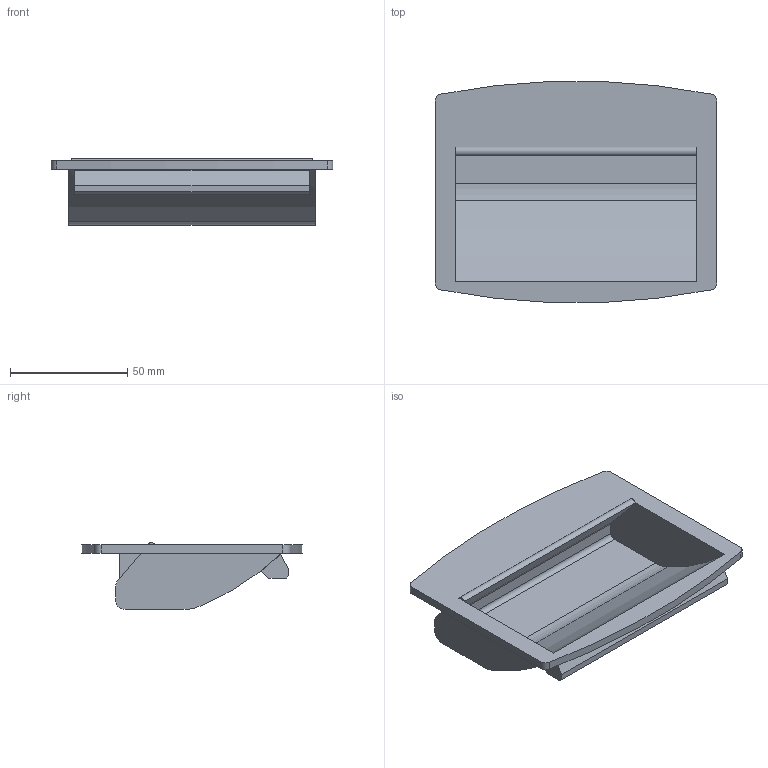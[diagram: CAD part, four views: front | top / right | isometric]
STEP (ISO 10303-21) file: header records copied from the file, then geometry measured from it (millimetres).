
FILE_DESCRIPTION (( 'STEP AP203' ), '1' );
FILE_NAME ('efph120sl-cl.STEP', '2021-10-25T01:57:04', ( '' ), ( '' ), 'SwSTEP 2.0', 'SolidWorks 2020', '' );
FILE_SCHEMA (( 'CONFIG_CONTROL_DESIGN' ));
Length unit declared in the file: millimetre
Products named in the file (1): efph120sl-cl
Bounding box: 120 x 94.05 x 28.5 mm (x, y, z)
Volume: 51836 mm3; surface area: 40028.9 mm2
Topology: 1 solids, 1 shells, 59 faces, 159 edges, 106 vertices
Faces by surface type: plane 44, cylinder 15
Entity records: 1922 total; most frequent: CARTESIAN_POINT 325, ORIENTED_EDGE 318, DIRECTION 311, EDGE_CURVE 159, VECTOR 127, LINE 127, VERTEX_POINT 106, AXIS2_PLACEMENT_3D 92
